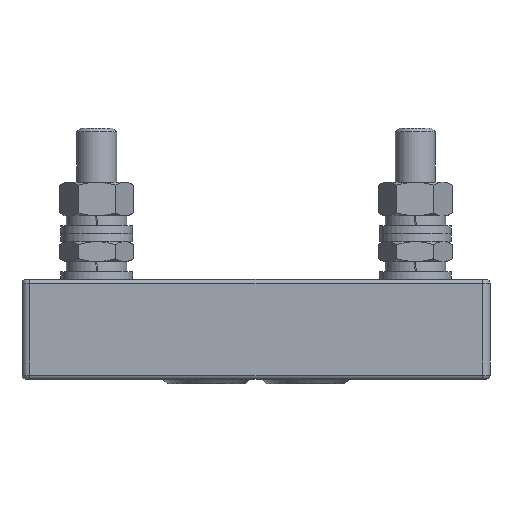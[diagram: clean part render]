
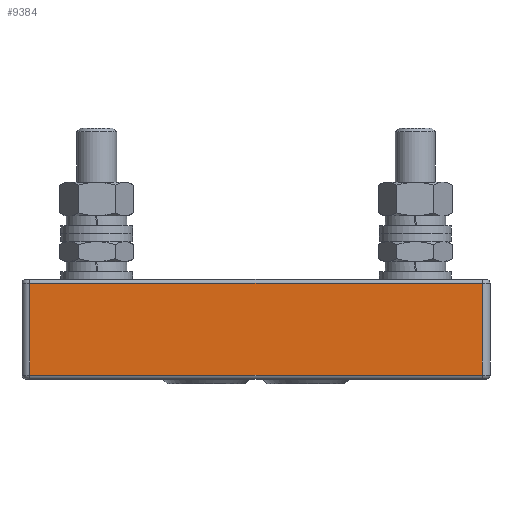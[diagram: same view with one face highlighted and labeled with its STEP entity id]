
A CAD part, front view. The second image highlights one B-rep face of the part: STEP entity #9384.
In plain terms, the highlighted planar face has unit normal (0, -1, 0).
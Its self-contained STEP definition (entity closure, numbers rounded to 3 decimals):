
#3303 = FACE_OUTER_BOUND ( 'NONE', #9575, .T. ) ;
#3327 = CARTESIAN_POINT ( 'NONE',  ( -56.75, -18., 11.5 ) ) ;
#3328 = CARTESIAN_POINT ( 'NONE',  ( 56.75, -18., 11.5 ) ) ;
#3329 = DIRECTION ( 'NONE',  ( -1., 0., 0. ) ) ;
#3330 = VECTOR ( 'NONE', #3329, 1000. ) ;
#3331 = CARTESIAN_POINT ( 'NONE',  ( -58.75, -18., 11.5 ) ) ;
#3332 = LINE ( 'NONE', #3331, #3330 ) ;
#3333 = DIRECTION ( 'NONE',  ( 1., 0., 0. ) ) ;
#3334 = DIRECTION ( 'NONE',  ( 0., -1., 0. ) ) ;
#3335 = CARTESIAN_POINT ( 'NONE',  ( -58.75, -18., -12.5 ) ) ;
#3336 = AXIS2_PLACEMENT_3D ( 'NONE', #3335, #3334, #3333 ) ;
#3337 = PLANE ( 'NONE',  #3336 ) ;
#3378 = CARTESIAN_POINT ( 'NONE',  ( -56.75, -18., -11.5 ) ) ;
#3379 = DIRECTION ( 'NONE',  ( 0., 0., -1. ) ) ;
#3380 = VECTOR ( 'NONE', #3379, 1000. ) ;
#3381 = CARTESIAN_POINT ( 'NONE',  ( -56.75, -18., -12.5 ) ) ;
#3382 = LINE ( 'NONE', #3381, #3380 ) ;
#3484 = DIRECTION ( 'NONE',  ( 0., 0., -1. ) ) ;
#3485 = VECTOR ( 'NONE', #3484, 1000. ) ;
#3486 = CARTESIAN_POINT ( 'NONE',  ( 56.75, -18., -12.5 ) ) ;
#3487 = LINE ( 'NONE', #3486, #3485 ) ;
#3489 = CARTESIAN_POINT ( 'NONE',  ( 56.75, -18., -11.5 ) ) ;
#3490 = DIRECTION ( 'NONE',  ( 1., 0., 0. ) ) ;
#3491 = VECTOR ( 'NONE', #3490, 1000. ) ;
#3492 = CARTESIAN_POINT ( 'NONE',  ( -58.75, -18., -11.5 ) ) ;
#3493 = LINE ( 'NONE', #3492, #3491 ) ;
#9384 = ADVANCED_FACE ( 'NONE', ( #3303 ), #3337, .T. ) ;
#9385 = ORIENTED_EDGE ( 'NONE', *, *, #9386, .T. ) ;
#9386 = EDGE_CURVE ( 'NONE', #9387, #9388, #3332, .T. ) ;
#9387 = VERTEX_POINT ( 'NONE', #3328 ) ;
#9388 = VERTEX_POINT ( 'NONE', #3327 ) ;
#9389 = ORIENTED_EDGE ( 'NONE', *, *, #9390, .T. ) ;
#9390 = EDGE_CURVE ( 'NONE', #9388, #9391, #3382, .T. ) ;
#9391 = VERTEX_POINT ( 'NONE', #3378 ) ;
#9432 = ORIENTED_EDGE ( 'NONE', *, *, #9433, .T. ) ;
#9433 = EDGE_CURVE ( 'NONE', #9391, #9434, #3493, .T. ) ;
#9434 = VERTEX_POINT ( 'NONE', #3489 ) ;
#9435 = ORIENTED_EDGE ( 'NONE', *, *, #9436, .F. ) ;
#9436 = EDGE_CURVE ( 'NONE', #9387, #9434, #3487, .T. ) ;
#9575 = EDGE_LOOP ( 'NONE', ( #9385, #9389, #9432, #9435 ) ) ;
